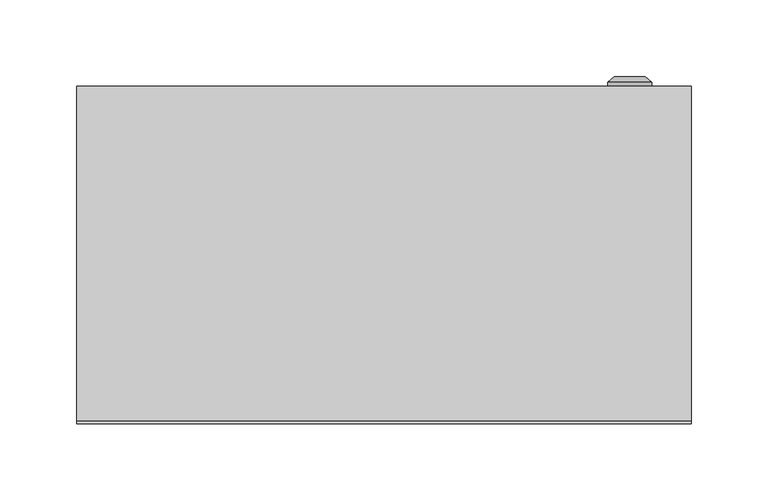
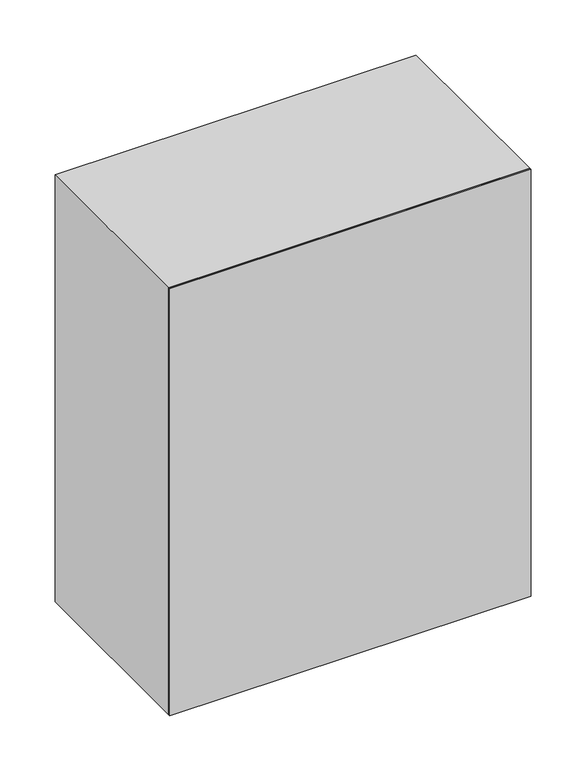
"""IFC4 building model written with IfcOpenShell, lengths in millimetres: proxy geometry, ЩМП : ЩМП-2-0_500х400х220."""

from ifc_helpers import new_model, si_unit, frame, origin, origin_with_axes, place, context, project, spatial, polyline, circle_curve, outline, extrude, source, transform, mapped, element, save
from ifc_brep_helpers import plane_surface, cylinder_surface, revolved_surface, advanced_brep


def electrical_equipment_36c89b5d(model_context):
    return source(origin(), model_context, "Body", "SolidModel", [
        advanced_brep(
        [(145.669873, 220.0, 250.0), (174.330127, 220.0, 250.0), (160.0, 220.0, 250.0), (145.669873, 222.366592, 250.0), (174.330127, 222.366592, 250.0), (150.0, 226.0, 250.0), (170.0, 226.0, 250.0), (158.1080471, 226.0, 250.0), (161.8919529, 226.0, 250.0), (158.1080471, 224.9822294, 250.0), (161.8919529, 224.9822294, 250.0), (160.0, 224.9822294, 250.0)],
        [
            (0, 1, circle_curve(frame((160.0, 220.0, 250.0), z_axis=(0.0, -1.0, 0.0), x_axis=(1.0, 0.0, 0.0)), 14.330127)),
            (1, 2),
            (2, 0),
            (1, 0, circle_curve(frame((160.0, 220.0, 250.0), z_axis=(0.0, -1.0, 0.0), x_axis=(1.0, 0.0, 0.0)), 14.330127)),
            (3, 4, circle_curve(frame((160.0, 222.366592, 250.0), z_axis=(0.0, -1.0, 0.0), x_axis=(1.0, 0.0, 0.0)), 14.330127)),
            (4, 1),
            (0, 3),
            (4, 3, circle_curve(frame((160.0, 222.366592, 250.0), z_axis=(0.0, -1.0, 0.0), x_axis=(1.0, 0.0, 0.0)), 14.330127)),
            (5, 6, circle_curve(frame((160.0, 226.0, 250.0), z_axis=(0.0, -1.0, 0.0), x_axis=(1.0, 0.0, 0.0)), 10.0)),
            (6, 4),
            (3, 5),
            (6, 5, circle_curve(frame((160.0, 226.0, 250.0), z_axis=(0.0, -1.0, 0.0), x_axis=(1.0, 0.0, 0.0)), 10.0)),
            (7, 8, circle_curve(frame((160.0, 226.0, 250.0), z_axis=(0.0, -1.0, 0.0), x_axis=(1.0, 0.0, 0.0)), 1.8919529)),
            (8, 6),
            (5, 7),
            (8, 7, circle_curve(frame((160.0, 226.0, 250.0), z_axis=(0.0, -1.0, 0.0), x_axis=(1.0, 0.0, 0.0)), 1.8919529)),
            (9, 10, circle_curve(frame((160.0, 224.9822294, 250.0), z_axis=(0.0, -1.0, 0.0), x_axis=(1.0, 0.0, 0.0)), 1.8919529)),
            (10, 8),
            (7, 9),
            (10, 9, circle_curve(frame((160.0, 224.9822294, 250.0), z_axis=(0.0, -1.0, 0.0), x_axis=(1.0, 0.0, 0.0)), 1.8919529)),
            (11, 10),
            (9, 11),
        ],
        [
            plane_surface(frame((160.0, 220.0, 250.0), z_axis=(0.0, -1.0, 0.0), x_axis=(1.0, 0.0, 0.0))),
            cylinder_surface(frame((160.0, 233.1348851, 250.0), z_axis=(0.0, 1.0, 0.0), x_axis=(1.0, 0.0, 0.0)), 14.330127),
            revolved_surface(polyline([(174.330127, 222.366592, 250.0), (170.0, 226.0, 250.0)]), (160.0, 233.1348851, 250.0), (0.0, 1.0, 0.0)),
            plane_surface(frame((160.0, 226.0, 250.0), z_axis=(0.0, 1.0, 0.0), x_axis=(1.0, 0.0, 0.0))),
            revolved_surface(polyline([(161.8919529, 226.0, 250.0), (161.8919529, 224.9822294, 250.0)]), (160.0, 233.1348851, 250.0), (0.0, 1.0, 0.0)),
            plane_surface(frame((160.0, 224.9822294, 250.0), z_axis=(0.0, 1.0, 0.0), x_axis=(1.0, 0.0, 0.0))),
        ],
        [
            (0, [[1, 2, 3]]),
            (0, [[4, -3, -2]]),
            (1, [[5, 6, -1, 7]]),
            (1, [[8, -7, -4, -6]]),
            (2, [[9, 10, -5, 11]]),
            (2, [[12, -11, -8, -10]]),
            (3, [[13, 14, -9, 15]]),
            (3, [[16, -15, -12, -14]]),
            (4, [[17, 18, -13, 19]]),
            (4, [[20, -19, -16, -18]]),
            (5, [[21, -17, 22]]),
            (5, [[-22, -20, -21]]),
        ],
    ),
        extrude(outline(polyline([(184.0, 195.0), (-184.0, 195.0), (-184.0, 220.0), (184.0, 220.0), (184.0, 195.0)])), frame((0.0, 0.0, 18.5), z_axis=(0.0, 0.0, 1.0), x_axis=(1.0, 0.0, 0.0)), (0.0, 0.0, 1.0), 463.0),
        extrude(outline(polyline([(500.0, -200.0033905), (0.0, -200.0033905), (0.0, 199.9966095), (500.0, 199.9966095), (500.0, -200.0033905)]), holes=[polyline([(465.0, -170.0033905), (465.0, 169.9966095), (35.0, 169.9966095), (35.0, -170.0033905), (465.0, -170.0033905)])]), frame((0.0, 2.0, 0.0), z_axis=(0.0, 1.0, 0.0), x_axis=(0.0, 0.0, 1.0)), (0.0, 0.0, 1.0), 218.0),
        extrude(outline(polyline([(200.0, 0.0), (-200.0, 0.0), (-200.0, 2.0), (200.0, 2.0), (200.0, 0.0)])), origin_with_axes(), (0.0, 0.0, 1.0), 500.0),
    ])


if __name__ == "__main__":
    model = new_model("IFC4")
    model_context = context("Model", 3, world=origin())
    ifc_project = project(units=[si_unit("LENGTHUNIT", "METRE", prefix="MILLI")], contexts=[model_context])
    site = spatial("IfcSite", under=ifc_project)
    building = spatial("IfcBuilding", under=site)
    placement = place(None, origin())
    electrical_equipment_shape = electrical_equipment_36c89b5d(model_context)
    element("IfcBuildingElementProxy", 1, Name="ЩМП : ЩМП-2-0_500х400х220", ObjectType="ЩМП : ЩМП-2-0_500х400х220", at=placement, inside=building, context=model_context, shape_type="MappedRepresentation", body=[
        mapped(electrical_equipment_shape, transform((0.0, 0.0, 0.0), x_axis=(1.0, 0.0, 0.0), y_axis=(0.0, 1.0, 0.0), z_axis=(0.0, 0.0, 1.0))),
    ])
    save(model, "model.ifc")
